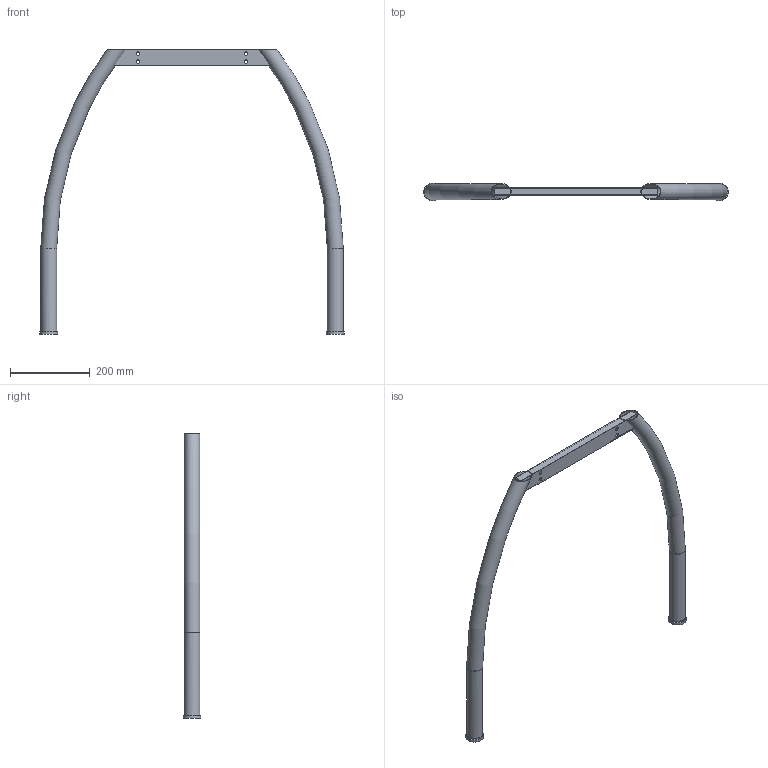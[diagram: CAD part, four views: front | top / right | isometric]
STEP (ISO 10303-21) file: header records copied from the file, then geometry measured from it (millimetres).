
FILE_DESCRIPTION( ( 'STEP AP214' ), '1' );
FILE_NAME( 'D:/Yug/2021/Delta/desk_and_office_organisation/QC/45988.stp', '2021-01-19T08:51:38', ( '' ), ( '' ), ' ', 'PARTsolutions', ' ' );
FILE_SCHEMA( ( 'AUTOMOTIVE_DESIGN { 1 0 10303 214 1 1 1 1 }' ) );
Length unit declared in the file: millimetre
Products named in the file (4): 45988; _45988_1; _45988_2; _45988_3
Assembly tree (3 placements, depth 2):
  45988
    _45988_1
    _45988_2
    _45988_3
Bounding box: 761.5 x 44.5 x 712.5 mm (x, y, z)
Volume: 385490.7 mm3; surface area: 459543.7 mm2
Topology: 3 solids, 3 shells, 36 faces, 86 edges, 60 vertices
Faces by surface type: plane 18, cylinder 14, torus 4
Full cylindrical faces by diameter (mm): 9 x8, 37 x2, 40 x2, 44.5 x2
Entity records: 1700 total; most frequent: CARTESIAN_POINT 594, DIRECTION 160, ORIENTED_EDGE 112, EDGE_LOOP 76, AXIS2_PLACEMENT_3D 68, EDGE_CURVE 56, FACE_OUTER_BOUND 54, VERTEX_POINT 48
